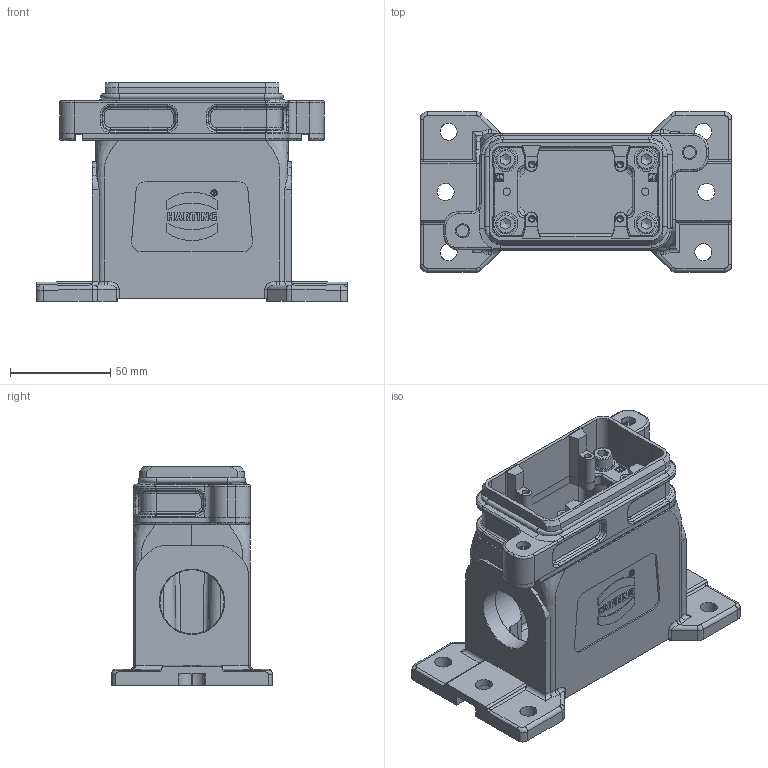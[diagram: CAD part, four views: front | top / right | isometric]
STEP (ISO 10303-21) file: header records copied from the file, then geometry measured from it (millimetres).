
FILE_DESCRIPTION(/* description */ (''),/* implementation_level */ '2;1');
FILE_NAME(/* name */ '100176633ugm000_f.stp',/* time_stamp */ '2022-07-27T15:35:35+02:00',/* author */ (''),/* organization */ (''),/* preprocessor_version */ 'ST-DEVELOPER v16.7',/* originating_system */ 'SIEMENS PLM Software NX 1911',/* authorisation */ '');
FILE_SCHEMA (('AUTOMOTIVE_DESIGN { 1 0 10303 214 3 1 1 1 }'));
Length unit declared in the file: millimetre
Products named in the file (1): 100176633ugm000_f
Bounding box: 155 x 80 x 109.1 mm (x, y, z)
Volume: 315720.2 mm3; surface area: 91157.6 mm2
Topology: 1 solids, 1 shells, 1057 faces, 2783 edges, 1746 vertices
Faces by surface type: plane 549, cylinder 300, bspline 126, cone 48, torus 30, extrusion 4
Full cylindrical faces by diameter (mm): 2.74 x4, 2.75 x1, 3.25 x1, 3.504 x1, 3.577 x1, 3.7 x2, 3.718 x1, 3.796 x1, 6 x2, 7.1 x2, 8.5 x6, 10 x4, 12 x4, 32 x1
Entity records: 44052 total; most frequent: CARTESIAN_POINT 11567, ORIENTED_EDGE 5378, DIRECTION 5017, EDGE_CURVE 2689, AXIS2_PLACEMENT_3D 1726, VERTEX_POINT 1720, VECTOR 1565, LINE 1561
